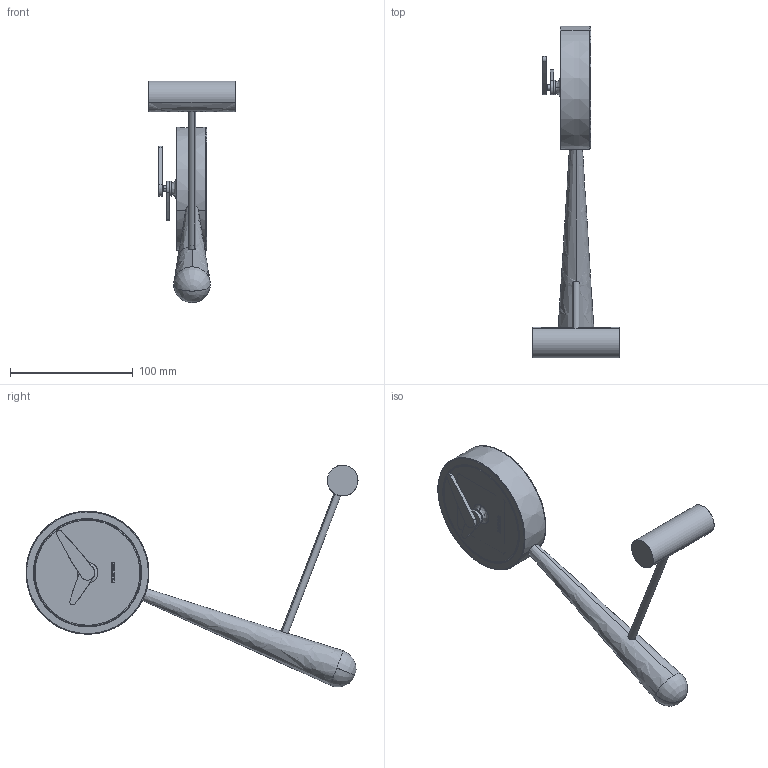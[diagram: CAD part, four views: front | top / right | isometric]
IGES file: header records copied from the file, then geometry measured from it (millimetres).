
Start section: SolidWorks IGES file using analytic representation for surfaces
Global section: file name: N:\OT\OFICINA TECNICA\PROYECTOS\EN DESARROLLO\ÁTOMO\ÁTOMO MINI PUNTERO\3D\MINI_PUNTERO.IGS; native system: SolidWorks 2016; preprocessor: SolidWorks 2016; author: Usuario; date: 180327.170018; units: millimetre
Bounding box: 70 x 269.97 x 180.2 mm (x, y, z)
Surface area: 90321.7 mm2 (no closed solid volume)
Topology: 0 solids, 0 shells, 241 faces, 3986 edges, 3985 vertices
Faces by surface type: bspline 149, revolution 92
